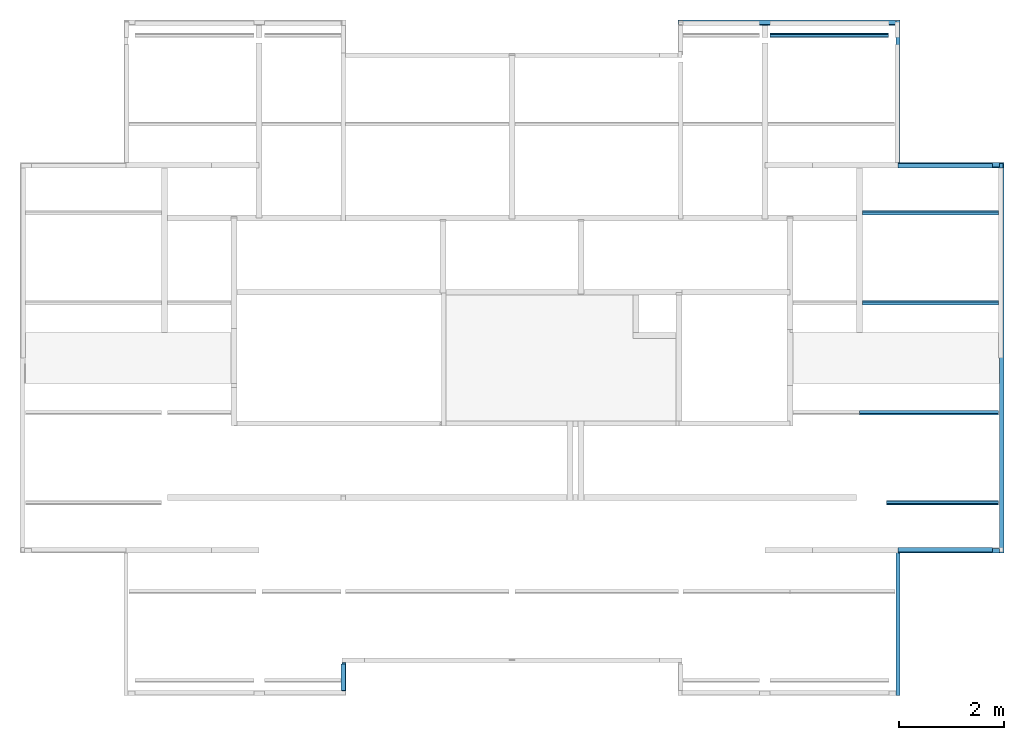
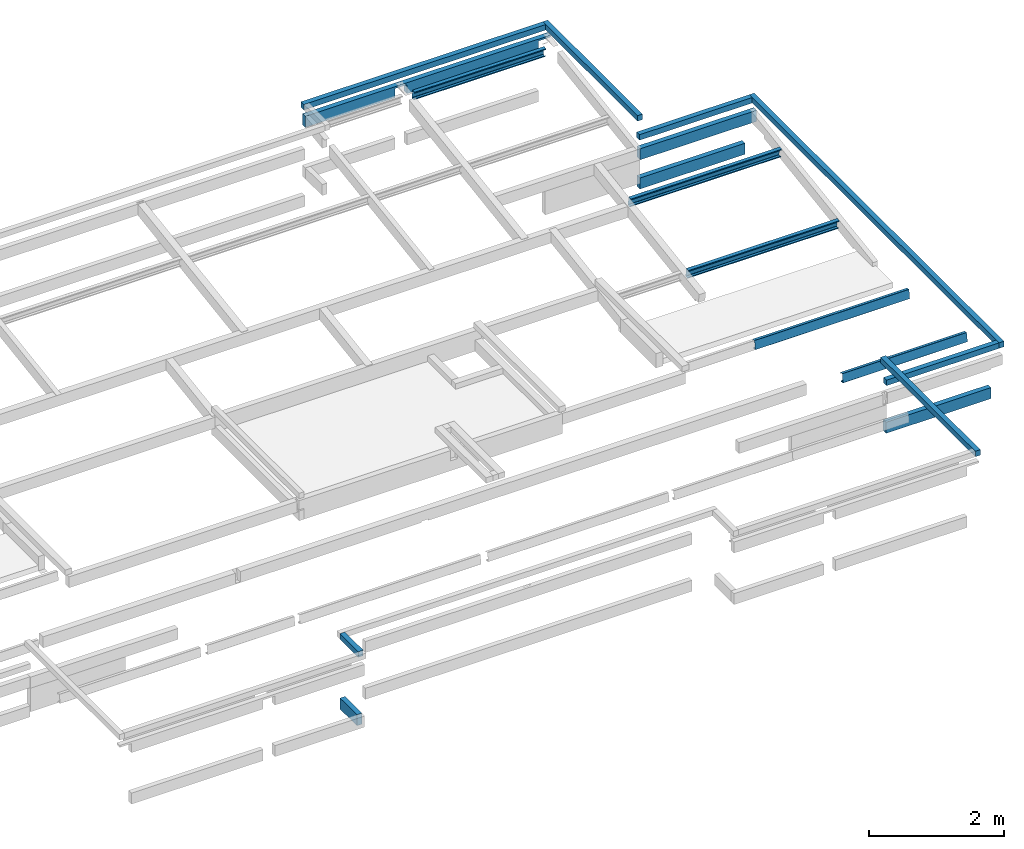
# One storey, part 6 of 9: 17 beams.
"""IFC4 building model written with IfcOpenShell, lengths in metres."""

from ifc_helpers import new_model, entity, si_unit, converted_unit, derived_unit, direction, frame, origin, place, context, subcontext, project, spatial, line, arc, indexed_curve, outline, extrude, source, transform, mapped, material, type_object, type_shapes, element, save


model = new_model("IFC4")

# Units and contexts
model_context = context("Model", 3, precision=1e-05, world=origin(), true_north=direction((6.123031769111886e-17, 1.0)))
body_context = subcontext(model_context, "Body", "Model", "MODEL_VIEW")
ifc_project = project(units=[si_unit("LENGTHUNIT", "METRE"), si_unit("AREAUNIT", "SQUARE_METRE"), si_unit("VOLUMEUNIT", "CUBIC_METRE"), converted_unit("PLANEANGLEUNIT", "DEGREE", entity("IfcRatioMeasure", 0.017453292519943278), si_unit("PLANEANGLEUNIT", "RADIAN"), dimensions=[0, 0, 0, 0, 0, 0, 0]), si_unit("MASSUNIT", "GRAM", prefix="KILO"), derived_unit("MASSDENSITYUNIT", [(si_unit("MASSUNIT", "GRAM", prefix="KILO"), 1), (si_unit("LENGTHUNIT", "METRE"), -3)]), derived_unit("IONCONCENTRATIONUNIT", [(si_unit("MASSUNIT", "GRAM", prefix="KILO"), 1), (si_unit("LENGTHUNIT", "METRE"), -3)]), derived_unit("MOMENTOFINERTIAUNIT", [(si_unit("LENGTHUNIT", "METRE"), 4)]), si_unit("TIMEUNIT", "SECOND"), si_unit("FREQUENCYUNIT", "HERTZ"), si_unit("THERMODYNAMICTEMPERATUREUNIT", "DEGREE_CELSIUS"), derived_unit("THERMALTRANSMITTANCEUNIT", [(si_unit("MASSUNIT", "GRAM", prefix="KILO"), 1), (si_unit("THERMODYNAMICTEMPERATUREUNIT", "KELVIN"), -1), (si_unit("TIMEUNIT", "SECOND"), -3)]), derived_unit("THERMALCONDUCTANCEUNIT", [(si_unit("MASSUNIT", "GRAM", prefix="KILO"), 1), (si_unit("THERMODYNAMICTEMPERATUREUNIT", "KELVIN"), -1), (si_unit("TIMEUNIT", "SECOND"), -3), (si_unit("LENGTHUNIT", "METRE"), 1)]), derived_unit("VOLUMETRICFLOWRATEUNIT", [(si_unit("LENGTHUNIT", "METRE"), 3), (si_unit("TIMEUNIT", "SECOND"), -1)]), derived_unit("MASSFLOWRATEUNIT", [(si_unit("MASSUNIT", "GRAM", prefix="KILO"), 1), (si_unit("TIMEUNIT", "SECOND"), -1)]), derived_unit("ROTATIONALFREQUENCYUNIT", [(si_unit("TIMEUNIT", "SECOND"), -1)]), si_unit("ELECTRICCURRENTUNIT", "AMPERE"), si_unit("ELECTRICVOLTAGEUNIT", "VOLT"), si_unit("POWERUNIT", "WATT"), si_unit("FORCEUNIT", "NEWTON", prefix="KILO"), si_unit("ILLUMINANCEUNIT", "LUX"), si_unit("LUMINOUSFLUXUNIT", "LUMEN"), si_unit("LUMINOUSINTENSITYUNIT", "CANDELA"), derived_unit("USERDEFINED", [(si_unit("MASSUNIT", "GRAM", prefix="KILO"), -1), (si_unit("LENGTHUNIT", "METRE"), -2), (si_unit("TIMEUNIT", "SECOND"), 3), (si_unit("LUMINOUSFLUXUNIT", "LUMEN"), 1)]), derived_unit("USERDEFINED", [(si_unit("MASSUNIT", "GRAM", prefix="KILO"), 1), (si_unit("TIMEUNIT", "SECOND"), -3), (si_unit("LENGTHUNIT", "METRE"), 3), (si_unit("ELECTRICCURRENTUNIT", "AMPERE"), -2)]), derived_unit("SOUNDPOWERUNIT", [(si_unit("MASSUNIT", "GRAM", prefix="KILO"), 1), (si_unit("TIMEUNIT", "SECOND"), -3), (si_unit("LENGTHUNIT", "METRE"), 2)]), derived_unit("SOUNDPRESSUREUNIT", [(si_unit("MASSUNIT", "GRAM", prefix="KILO"), 1), (si_unit("LENGTHUNIT", "METRE"), -1), (si_unit("TIMEUNIT", "SECOND"), -2)]), derived_unit("LINEARVELOCITYUNIT", [(si_unit("LENGTHUNIT", "METRE"), 1), (si_unit("TIMEUNIT", "SECOND"), -1)]), si_unit("PRESSUREUNIT", "PASCAL"), derived_unit("USERDEFINED", [(si_unit("MASSUNIT", "GRAM", prefix="KILO"), 1), (si_unit("LENGTHUNIT", "METRE"), -2), (si_unit("TIMEUNIT", "SECOND"), -2)]), derived_unit("LINEARFORCEUNIT", [(si_unit("MASSUNIT", "GRAM", prefix="KILO"), 1), (si_unit("TIMEUNIT", "SECOND"), -2)]), derived_unit("PLANARFORCEUNIT", [(si_unit("MASSUNIT", "GRAM", prefix="KILO"), 1), (si_unit("LENGTHUNIT", "METRE"), -1), (si_unit("TIMEUNIT", "SECOND"), -2)]), derived_unit("SPECIFICHEATCAPACITYUNIT", [(si_unit("THERMODYNAMICTEMPERATUREUNIT", "KELVIN"), -1), (si_unit("LENGTHUNIT", "METRE"), 2), (si_unit("TIMEUNIT", "SECOND"), -2)]), derived_unit("HEATINGVALUEUNIT", [(si_unit("LENGTHUNIT", "METRE"), 2), (si_unit("TIMEUNIT", "SECOND"), -2)]), derived_unit("VAPORPERMEABILITYUNIT", [(si_unit("LENGTHUNIT", "METRE"), -1), (si_unit("TIMEUNIT", "SECOND"), 1)]), derived_unit("DYNAMICVISCOSITYUNIT", [(si_unit("MASSUNIT", "GRAM", prefix="KILO"), 1), (si_unit("TIMEUNIT", "SECOND"), -1), (si_unit("LENGTHUNIT", "METRE"), -1)]), derived_unit("THERMALEXPANSIONCOEFFICIENTUNIT", [(si_unit("THERMODYNAMICTEMPERATUREUNIT", "KELVIN"), -1)]), derived_unit("MODULUSOFELASTICITYUNIT", [(si_unit("MASSUNIT", "GRAM", prefix="KILO"), 1), (si_unit("LENGTHUNIT", "METRE"), -1), (si_unit("TIMEUNIT", "SECOND"), -2)]), derived_unit("ISOTHERMALMOISTURECAPACITYUNIT", [(si_unit("LENGTHUNIT", "METRE"), 3), (si_unit("MASSUNIT", "GRAM", prefix="KILO"), -1)]), derived_unit("MOISTUREDIFFUSIVITYUNIT", [(si_unit("TIMEUNIT", "SECOND"), -1), (si_unit("LENGTHUNIT", "METRE"), 2)])], contexts=[model_context])

# Site, building, storey
site_placement = place(None, origin())
site = spatial("IfcSite", under=ifc_project, at=site_placement, Name="Default", CompositionType="ELEMENT")
building_placement = place(site_placement, origin())
building = spatial("IfcBuilding", under=site, at=building_placement, Name="Las nubes", CompositionType="ELEMENT")
storey_placement = place(building_placement, frame((0.0, 0.0, 14.100000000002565)))
storey = spatial("IfcBuildingStorey", under=building, at=storey_placement, Name="CUBIERTA", CompositionType="ELEMENT", Elevation=14.100000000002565)

# Beams
ifc_material_1 = material(Name="Concrete - Cast-in-Place Concrete - 35 MPa", Category="Materials")
beam_type_1 = type_object("IfcBeamType", Name="M_Concrete-Rectangular Beam:(0.085x0.20)", PredefinedType="BEAM", material=ifc_material_1)
shared_shape_1 = source(origin(), body_context, "Body", "SweptSolid", [
    extrude(outline(indexed_curve([(-0.09999999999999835, -0.04250000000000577), (0.10000000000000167, -0.0425000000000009), (0.10000000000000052, 0.04250000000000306), (-0.0999999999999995, 0.04250000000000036), (-0.09999999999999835, -0.04250000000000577)], self_intersect=False)), frame((18.472500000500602, -2.767505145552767, 14.10000000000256), z_axis=(-1.0, 0.0, 0.0), x_axis=(0.0, 0.0, -1.0)), (0.0, 0.0, 1.0), 1.8024999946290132),
])
type_shapes(beam_type_1, [shared_shape_1])
beam_1_placement = place(storey_placement, frame((0.0, 0.0, -14.100000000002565)))
element("IfcBeam", 1, at=beam_1_placement, inside=storey, type_object=beam_type_1, material=ifc_material_1, Name="M_Concrete-Rectangular Beam:(0.085x0.20)", ObjectType="M_Concrete-Rectangular Beam:(0.085x0.20)", PredefinedType="BEAM", context=body_context, shape_type="MappedRepresentation", body=[
    mapped(shared_shape_1, transform((0.0, 0.0, 0.0), scale=1.0)),
])
ifc_material_2 = material(Name="Concrete, Cast In Situ", Category="Materials")
beam_type_2 = type_object("IfcBeamType", Name="M_Concrete-Rectangular Beam:(0.085x0.20)", PredefinedType="BEAM", material=ifc_material_2)
shared_shape_2 = source(origin(), body_context, "Body", "SweptSolid", [
    extrude(outline(indexed_curve([(-0.09999999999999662, -0.04250000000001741), (0.10000000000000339, -0.042499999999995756), (0.09999999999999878, 0.04250000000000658), (-0.10000000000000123, 0.042499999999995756), (-0.09999999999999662, -0.04250000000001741)], self_intersect=False)), frame((18.47250000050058, -10.082494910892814, 14.10000000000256), z_axis=(-1.0, 0.0, 0.0), x_axis=(0.0, 0.0, -1.0)), (0.0, 0.0, 1.0), 1.8024999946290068),
])
type_shapes(beam_type_2, [shared_shape_2])
beam_2_placement = place(storey_placement, frame((0.0, 0.0, -14.100000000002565)))
element("IfcBeam", 2, at=beam_2_placement, inside=storey, type_object=beam_type_2, material=ifc_material_2, Name="M_Concrete-Rectangular Beam:(0.085x0.20)", ObjectType="M_Concrete-Rectangular Beam:(0.085x0.20)", PredefinedType="BEAM", context=body_context, shape_type="MappedRepresentation", body=[
    mapped(shared_shape_2, transform((0.0, 0.0, 0.0), scale=1.0)),
])
beam_type_3 = type_object("IfcBeamType", Name="M_Concrete-Rectangular Beam:(0.085x0.20)", PredefinedType="BEAM", material=ifc_material_2)
shared_shape_3 = source(origin(), body_context, "Body", "SweptSolid", [
    extrude(outline(indexed_curve([(-2.2989999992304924, -0.09428000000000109), (1.906000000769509, -0.09428000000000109), (1.906000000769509, -0.05858000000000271), (1.7059999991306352, -0.05858000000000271), (1.7059999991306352, 0.10571999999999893), (-0.5565000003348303, 0.10571999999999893), (-0.5565000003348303, -0.05858000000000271), (-0.7565000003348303, -0.05858000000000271), (-0.7565000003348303, 0.10571999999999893), (-2.2989999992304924, 0.10571999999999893), (-2.2989999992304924, -0.09428000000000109)], self_intersect=False)), frame((14.791500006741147, -0.09500002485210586, 15.041420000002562), z_axis=(0.0, 1.0, 0.0), x_axis=(1.0, 0.0, 0.0)), (0.0, 0.0, 1.0), 0.08500000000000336),
])
type_shapes(beam_type_3, [shared_shape_3])
beam_3_placement = place(storey_placement, frame((0.0, 0.0, -14.100000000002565)))
element("IfcBeam", 3, at=beam_3_placement, inside=storey, type_object=beam_type_3, material=ifc_material_2, Name="M_Concrete-Rectangular Beam:(0.085x0.20)", ObjectType="M_Concrete-Rectangular Beam:(0.085x0.20)", PredefinedType="BEAM", context=body_context, shape_type="MappedRepresentation", body=[
    mapped(shared_shape_3, transform((0.0, 0.0, 0.0), scale=1.0)),
])
beam_type_4 = type_object("IfcBeamType", Name="M_Concrete-Rectangular Beam:(0.085x0.20)", PredefinedType="BEAM", material=ifc_material_2)
shared_shape_4 = source(origin(), body_context, "Body", "SweptSolid", [
    extrude(outline(indexed_curve([(-0.10000000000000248, -0.04249999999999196), (0.09999999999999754, -0.04250000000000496), (0.10000000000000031, 0.04249999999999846), (-0.0999999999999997, 0.0425000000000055), (-0.10000000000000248, -0.04249999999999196)], self_intersect=False)), frame((18.67250000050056, -2.7675051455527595, 14.628300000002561), z_axis=(-1.0, 0.0, 0.0), x_axis=(0.0, 0.0, -1.0)), (0.0, 0.0, 1.0), 2.00249999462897),
])
type_shapes(beam_type_4, [shared_shape_4])
beam_4_placement = place(storey_placement, frame((0.0, 0.0, -14.100000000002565)))
element("IfcBeam", 4, at=beam_4_placement, inside=storey, type_object=beam_type_4, material=ifc_material_2, Name="M_Concrete-Rectangular Beam:(0.085x0.20)", ObjectType="M_Concrete-Rectangular Beam:(0.085x0.20)", PredefinedType="BEAM", context=body_context, shape_type="MappedRepresentation", body=[
    mapped(shared_shape_4, transform((0.0, 0.0, 0.0), scale=1.0)),
])
beam_type_5 = type_object("IfcBeamType", Name="M_Concrete-Rectangular Beam:(0.085x0.10)", PredefinedType="BEAM", material=ifc_material_2)
shared_shape_5 = source(origin(), body_context, "Body", "SweptSolid", [
    extrude(outline(indexed_curve([(-0.04250000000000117, -0.04999999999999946), (0.04250000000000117, -0.04999999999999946), (0.04250000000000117, 0.050000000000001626), (-0.04250000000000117, 0.04999999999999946), (-0.04250000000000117, -0.04999999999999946)], self_intersect=False)), frame((16.67000000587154, -2.8100000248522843, 15.29680000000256), z_axis=(0.0, 1.0, 0.0), x_axis=(-1.0, 0.0, 0.0)), (0.0, 0.0, 1.0), 2.8149999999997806),
])
type_shapes(beam_type_5, [shared_shape_5])
beam_5_placement = place(storey_placement, frame((0.0, 0.0, -14.100000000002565)))
element("IfcBeam", 5, at=beam_5_placement, inside=storey, type_object=beam_type_5, material=ifc_material_2, Name="M_Concrete-Rectangular Beam:(0.085x0.10)", ObjectType="M_Concrete-Rectangular Beam:(0.085x0.10)", PredefinedType="BEAM", context=body_context, shape_type="MappedRepresentation", body=[
    mapped(shared_shape_5, transform((0.0, 0.0, 0.0), scale=1.0)),
])
ifc_material_3 = material(Name="Steel - 300+", Category="Materials")
beam_type_6 = type_object("IfcBeamType", Name="AUS-C Purlin:CR-1", PredefinedType="BEAM", material=ifc_material_3)
shared_shape_6 = source(origin(), body_context, "Body", "SweptSolid", [
    extrude(outline(indexed_curve([(-0.0761499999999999, -0.03615000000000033), (0.0733500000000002, -0.036150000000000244), (0.07829974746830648, -0.03409974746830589), (0.08035000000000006, -0.02914999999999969), (0.08035000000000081, 0.020350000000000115), (0.07932487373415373, 0.022824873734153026), (0.07685000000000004, 0.023850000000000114), (0.060349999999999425, 0.023850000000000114), (0.060349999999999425, 0.02185000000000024), (0.07685000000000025, 0.02185000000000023), (0.07791066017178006, 0.021410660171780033), (0.07834999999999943, 0.020350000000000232), (0.07835000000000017, -0.029150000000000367), (0.07688553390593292, -0.032685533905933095), (0.0733499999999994, -0.03415000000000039), (-0.07614999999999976, -0.03415000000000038), (-0.07721066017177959, -0.033710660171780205), (-0.07765000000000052, -0.03265000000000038), (-0.07764999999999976, 0.02035000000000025), (-0.07721066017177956, 0.021410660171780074), (-0.07615000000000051, 0.02185000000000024), (-0.05965000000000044, 0.02185000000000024), (-0.05965000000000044, 0.023850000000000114), (-0.07614999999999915, 0.023850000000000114), (-0.07862487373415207, 0.022824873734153), (-0.0796499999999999, 0.020350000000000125), (-0.0796499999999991, -0.032650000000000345), (-0.078624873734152, -0.03512487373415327)], segments=[line(1, 2), arc(2, 3, 4), line(4, 5), arc(5, 6, 7), line(7, 8, 9, 10), arc(10, 11, 12), line(12, 13), arc(13, 14, 15), line(15, 16), arc(16, 17, 18), line(18, 19), arc(19, 20, 21), line(21, 22, 23, 24), arc(24, 25, 26), line(26, 27), arc(27, 28, 1)], self_intersect=False)), frame((-1.3043464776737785, 0.03415000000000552, 0.0003499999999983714), z_axis=(1.0, 0.0, 0.0), x_axis=(0.0, 0.0, -1.0)), (0.0, 0.0, 1.0), 2.5935732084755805),
])
type_shapes(beam_type_6, [shared_shape_6])
beam_6_placement = place(storey_placement, frame((17.28249947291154, -3.6354425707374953, 0.4236636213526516), z_axis=(0.0, -0.14834045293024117, 0.9889363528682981), x_axis=(-1.0, 0.0, 0.0)))
element("IfcBeam", 6, at=beam_6_placement, inside=storey, type_object=beam_type_6, material=ifc_material_3, Name="AUS-C Purlin:CR-1", ObjectType="AUS-C Purlin:CR-1", PredefinedType="BEAM", context=body_context, shape_type="MappedRepresentation", body=[
    mapped(shared_shape_6, transform((0.0, 0.0, 0.0), scale=1.0)),
])
beam_type_7 = type_object("IfcBeamType", Name="AUS-C Purlin:CR-1", PredefinedType="BEAM", material=ifc_material_3)
shared_shape_7 = source(origin(), body_context, "Body", "SweptSolid", [
    extrude(outline(indexed_curve([(-0.07614999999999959, -0.023850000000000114), (-0.05965000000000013, -0.023850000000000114), (-0.05965000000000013, -0.02185000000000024), (-0.07615000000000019, -0.02185000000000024), (-0.07721066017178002, -0.021410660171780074), (-0.0776500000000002, -0.020350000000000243), (-0.07765000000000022, 0.03265000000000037), (-0.07721066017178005, 0.033710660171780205), (-0.0761500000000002, 0.03415000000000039), (0.07334999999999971, 0.03415000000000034), (0.07688553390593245, 0.03268553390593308), (0.07834999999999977, 0.029150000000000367), (0.07834999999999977, -0.02035000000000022), (0.07791066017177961, -0.021410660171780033), (0.07684999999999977, -0.02185000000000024), (0.06034999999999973, -0.02185000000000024), (0.06034999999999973, -0.023850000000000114), (0.07685000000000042, -0.023850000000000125), (0.07932487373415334, -0.022824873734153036), (0.0803500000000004, -0.020350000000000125), (0.0803500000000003, 0.029149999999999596), (0.078299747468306, 0.034099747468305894), (0.0733499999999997, 0.03615000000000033), (-0.07614999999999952, 0.036150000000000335), (-0.07862487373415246, 0.03512487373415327), (-0.07964999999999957, 0.032650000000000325), (-0.07964999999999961, -0.020350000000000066), (-0.07862487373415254, -0.02282487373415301)], segments=[line(1, 2, 3, 4), arc(4, 5, 6), line(6, 7), arc(7, 8, 9), line(9, 10), arc(10, 11, 12), line(12, 13), arc(13, 14, 15), line(15, 16, 17, 18), arc(18, 19, 20), line(20, 21), arc(21, 22, 23), line(23, 24), arc(24, 25, 26), line(26, 27), arc(27, 28, 1)], self_intersect=False)), frame((-1.0755964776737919, -0.03415000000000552, 0.00034999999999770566), z_axis=(1.0, 0.0, 0.0), x_axis=(0.0, 0.0, -1.0)), (0.0, 0.0, 1.0), 2.136073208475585),
])
type_shapes(beam_type_7, [shared_shape_7])
beam_7_placement = place(storey_placement, frame((17.511249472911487, -9.214557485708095, 0.4236636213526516), z_axis=(0.0, 0.14834045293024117, 0.9889363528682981), x_axis=(-1.0, 0.0, 0.0)))
element("IfcBeam", 7, at=beam_7_placement, inside=storey, type_object=beam_type_7, material=ifc_material_3, Name="AUS-C Purlin:CR-1", ObjectType="AUS-C Purlin:CR-1", PredefinedType="BEAM", context=body_context, shape_type="MappedRepresentation", body=[
    mapped(shared_shape_7, transform((0.0, 0.0, 0.0), scale=1.0)),
])
beam_type_8 = type_object("IfcBeamType", Name="AUS-C Purlin:CR-1", PredefinedType="BEAM", material=ifc_material_3)
shared_shape_8 = source(origin(), body_context, "Body", "SweptSolid", [
    extrude(outline(indexed_curve([(-0.07614999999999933, -0.03615000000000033), (0.07334999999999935, -0.036150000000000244), (0.0782997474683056, -0.03409974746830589), (0.08035000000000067, -0.02914999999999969), (0.08035000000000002, 0.020350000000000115), (0.07932487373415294, 0.022824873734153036), (0.07685000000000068, 0.023850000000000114), (0.060349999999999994, 0.023850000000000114), (0.060349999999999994, 0.02185000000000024), (0.0768499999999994, 0.02185000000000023), (0.07791066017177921, 0.021410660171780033), (0.07835000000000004, 0.020350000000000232), (0.07834999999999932, -0.029150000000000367), (0.07688553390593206, -0.032685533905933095), (0.07334999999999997, -0.03415000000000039), (-0.07615000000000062, -0.03415000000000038), (-0.07721066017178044, -0.033710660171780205), (-0.07764999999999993, -0.03265000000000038), (-0.07765000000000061, 0.02035000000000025), (-0.07721066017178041, 0.021410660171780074), (-0.07614999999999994, 0.02185000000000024), (-0.05964999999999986, 0.02185000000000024), (-0.05964999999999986, 0.023850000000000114), (-0.07615000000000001, 0.023850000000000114), (-0.0786248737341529, 0.022824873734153), (-0.0796499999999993, 0.020350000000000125), (-0.07964999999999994, -0.032650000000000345), (-0.07862487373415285, -0.03512487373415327)], segments=[line(1, 2), arc(2, 3, 4), line(4, 5), arc(5, 6, 7), line(7, 8, 9, 10), arc(10, 11, 12), line(12, 13), arc(13, 14, 15), line(15, 16), arc(16, 17, 18), line(18, 19), arc(19, 20, 21), line(21, 22, 23, 24), arc(24, 25, 26), line(26, 27), arc(27, 28, 1)], self_intersect=False)), frame((-1.3043464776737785, 0.03415000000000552, 0.00034999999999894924), z_axis=(1.0, 0.0, 0.0), x_axis=(0.0, 0.0, -1.0)), (0.0, 0.0, 1.0), 2.593814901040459),
])
type_shapes(beam_type_8, [shared_shape_8])
beam_8_placement = place(storey_placement, frame((17.282499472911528, -5.350442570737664, 0.1664136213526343), z_axis=(0.0, -0.14834045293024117, 0.9889363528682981), x_axis=(-1.0, 0.0, 0.0)))
element("IfcBeam", 8, at=beam_8_placement, inside=storey, type_object=beam_type_8, material=ifc_material_3, Name="AUS-C Purlin:CR-1", ObjectType="AUS-C Purlin:CR-1", PredefinedType="BEAM", context=body_context, shape_type="MappedRepresentation", body=[
    mapped(shared_shape_8, transform((0.0, 0.0, 0.0), scale=1.0)),
])
beam_type_9 = type_object("IfcBeamType", Name="AUS-C Purlin:CR-1", PredefinedType="BEAM", material=ifc_material_3)
shared_shape_9 = source(origin(), body_context, "Body", "SweptSolid", [
    extrude(outline(indexed_curve([(-0.07614999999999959, -0.023850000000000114), (-0.05965000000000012, -0.023850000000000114), (-0.05965000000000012, -0.02185000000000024), (-0.07615000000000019, -0.02185000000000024), (-0.07721066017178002, -0.021410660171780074), (-0.0776500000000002, -0.020350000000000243), (-0.07765000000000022, 0.03265000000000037), (-0.07721066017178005, 0.033710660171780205), (-0.0761500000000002, 0.03415000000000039), (0.07334999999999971, 0.03415000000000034), (0.07688553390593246, 0.03268553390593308), (0.07834999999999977, 0.029150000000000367), (0.07834999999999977, -0.02035000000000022), (0.07791066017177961, -0.021410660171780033), (0.07684999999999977, -0.02185000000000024), (0.060349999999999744, -0.02185000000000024), (0.060349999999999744, -0.023850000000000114), (0.07685000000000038, -0.023850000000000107), (0.0793248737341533, -0.022824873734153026), (0.0803500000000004, -0.020350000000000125), (0.08035000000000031, 0.029149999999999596), (0.07829974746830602, 0.034099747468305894), (0.0733499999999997, 0.03615000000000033), (-0.07614999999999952, 0.036150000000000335), (-0.07862487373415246, 0.03512487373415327), (-0.07964999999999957, 0.032650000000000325), (-0.07964999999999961, -0.020350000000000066), (-0.07862487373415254, -0.02282487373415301)], segments=[line(1, 2, 3, 4), arc(4, 5, 6), line(6, 7), arc(7, 8, 9), line(9, 10), arc(10, 11, 12), line(12, 13), arc(13, 14, 15), line(15, 16, 17, 18), arc(18, 19, 20), line(20, 21), arc(21, 22, 23), line(23, 24), arc(24, 25, 26), line(26, 27), arc(27, 28, 1)], self_intersect=False)), frame((-1.3043464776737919, -0.03415000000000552, 0.000349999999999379), z_axis=(1.0, 0.0, 0.0), x_axis=(0.0, 0.0, -1.0)), (0.0, 0.0, 1.0), 2.651314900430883),
])
type_shapes(beam_type_9, [shared_shape_9])
beam_9_placement = place(storey_placement, frame((17.2824994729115, -7.499557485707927, 0.1664136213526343), z_axis=(0.0, 0.14834045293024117, 0.9889363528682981), x_axis=(-1.0, 0.0, 0.0)))
element("IfcBeam", 9, at=beam_9_placement, inside=storey, type_object=beam_type_9, material=ifc_material_3, Name="AUS-C Purlin:CR-1", ObjectType="AUS-C Purlin:CR-1", PredefinedType="BEAM", context=body_context, shape_type="MappedRepresentation", body=[
    mapped(shared_shape_9, transform((0.0, 0.0, 0.0), scale=1.0)),
])
beam_type_10 = type_object("IfcBeamType", Name="AUS-C Purlin:CR-1", PredefinedType="BEAM", material=ifc_material_3)
shared_shape_10 = source(origin(), body_context, "Body", "SweptSolid", [
    extrude(outline(indexed_curve([(-0.07614999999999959, -0.03615000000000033), (0.07334999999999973, -0.036150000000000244), (0.078299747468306, -0.03409974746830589), (0.08035000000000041, -0.02914999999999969), (0.08035000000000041, 0.020350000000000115), (0.07932487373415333, 0.022824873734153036), (0.0768500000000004, 0.023850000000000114), (0.06034999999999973, 0.023850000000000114), (0.06034999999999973, 0.02185000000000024), (0.0768499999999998, 0.02185000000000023), (0.07791066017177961, 0.02141066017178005), (0.07834999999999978, 0.020350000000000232), (0.07834999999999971, -0.029150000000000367), (0.07688553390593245, -0.032685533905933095), (0.07334999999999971, -0.03415000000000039), (-0.07615000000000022, -0.03415000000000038), (-0.07721066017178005, -0.033710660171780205), (-0.0776500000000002, -0.03265000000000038), (-0.07765000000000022, 0.02035000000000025), (-0.07721066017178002, 0.021410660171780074), (-0.0761500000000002, 0.02185000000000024), (-0.05965000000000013, 0.02185000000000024), (-0.05965000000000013, 0.023850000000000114), (-0.0761499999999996, 0.023850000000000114), (-0.07862487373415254, 0.02282487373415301), (-0.07964999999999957, 0.020350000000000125), (-0.07964999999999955, -0.032650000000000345), (-0.07862487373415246, -0.03512487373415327)], segments=[line(1, 2), arc(2, 3, 4), line(4, 5), arc(5, 6, 7), line(7, 8, 9, 10), arc(10, 11, 12), line(12, 13), arc(13, 14, 15), line(15, 16), arc(16, 17, 18), line(18, 19), arc(19, 20, 21), line(21, 22, 23, 24), arc(24, 25, 26), line(26, 27), arc(27, 28, 1)], self_intersect=False)), frame((-1.0970356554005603, 0.03415000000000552, 0.0003499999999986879), z_axis=(1.0, 0.0, 0.0), x_axis=(0.0, 0.0, -1.0)), (0.0, 0.0, 1.0), 2.2570356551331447),
])
type_shapes(beam_type_10, [shared_shape_10])
beam_10_placement = place(storey_placement, frame((15.395000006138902, -0.25573925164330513, 0.9306191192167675), z_axis=(0.0, -0.14834045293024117, 0.9889363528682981), x_axis=(-1.0, 0.0, 0.0)))
element("IfcBeam", 10, at=beam_10_placement, inside=storey, type_object=beam_type_10, material=ifc_material_3, Name="AUS-C Purlin:CR-1", ObjectType="AUS-C Purlin:CR-1", PredefinedType="BEAM", context=body_context, shape_type="MappedRepresentation", body=[
    mapped(shared_shape_10, transform((0.0, 0.0, 0.0), scale=1.0)),
])
beam_type_11 = type_object("IfcBeamType", Name="M_Concrete-Rectangular Beam:(0.085x0.10)", PredefinedType="BEAM", material=ifc_material_2)
shared_shape_11 = source(origin(), body_context, "Body", "SweptSolid", [
    extrude(outline(indexed_curve([(-0.042499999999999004, -0.04999999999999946), (0.042500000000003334, -0.04999999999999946), (0.042500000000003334, 0.050000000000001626), (-0.042499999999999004, 0.050000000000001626), (-0.042499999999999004, -0.04999999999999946)], self_intersect=False)), frame((16.670000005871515, -12.855000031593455, 15.29680000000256), z_axis=(0.0, 1.0, 0.0), x_axis=(-1.0, 0.0, 0.0)), (0.0, 0.0, 1.0), 2.815000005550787),
])
type_shapes(beam_type_11, [shared_shape_11])
beam_11_placement = place(storey_placement, frame((0.0, 0.0, -14.100000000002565)))
element("IfcBeam", 11, at=beam_11_placement, inside=storey, type_object=beam_type_11, material=ifc_material_2, Name="M_Concrete-Rectangular Beam:(0.085x0.10)", ObjectType="M_Concrete-Rectangular Beam:(0.085x0.10)", PredefinedType="BEAM", context=body_context, shape_type="MappedRepresentation", body=[
    mapped(shared_shape_11, transform((0.0, 0.0, 0.0), scale=1.0)),
])
beam_type_12 = type_object("IfcBeamType", Name="M_Concrete-Rectangular Beam:(0.085x0.10)", PredefinedType="BEAM", material=ifc_material_1)
shared_shape_12 = source(origin(), body_context, "Body", "SweptSolid", [
    extrude(outline(indexed_curve([(-0.04250000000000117, -0.050000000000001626), (0.04250000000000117, -0.050000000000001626), (0.04250000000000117, 0.04999999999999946), (-0.04250000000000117, 0.04999999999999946), (-0.04250000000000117, -0.050000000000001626)], self_intersect=False)), frame((18.645000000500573, -10.13999491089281, 14.925800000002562), z_axis=(0.0, 1.0, 0.0), x_axis=(-1.0, 0.0, 0.0)), (0.0, 0.0, 1.0), 7.429994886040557),
])
type_shapes(beam_type_12, [shared_shape_12])
beam_12_placement = place(storey_placement, frame((0.0, 0.0, -14.100000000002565)))
element("IfcBeam", 12, at=beam_12_placement, inside=storey, type_object=beam_type_12, material=ifc_material_1, Name="M_Concrete-Rectangular Beam:(0.085x0.10)", ObjectType="M_Concrete-Rectangular Beam:(0.085x0.10)", PredefinedType="BEAM", context=body_context, shape_type="MappedRepresentation", body=[
    mapped(shared_shape_12, transform((0.0, 0.0, 0.0), scale=1.0)),
])
beam_type_13 = type_object("IfcBeamType", Name="M_Concrete-Rectangular Beam:(0.085x0.10)", PredefinedType="BEAM", material=ifc_material_2)
shared_shape_13 = source(origin(), body_context, "Body", "SweptSolid", [
    extrude(outline(indexed_curve([(-0.05000000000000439, -0.04249999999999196), (0.04999999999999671, -0.04250000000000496), (0.05000000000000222, 0.042499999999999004), (-0.04999999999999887, 0.0425000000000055), (-0.05000000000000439, -0.04249999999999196)], self_intersect=False)), frame((18.602500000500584, -2.7525000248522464, 14.92580000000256), z_axis=(-1.0, 0.0, 0.0), x_axis=(0.0, 0.0, -1.0)), (0.0, 0.0, 1.0), 1.9324999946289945),
])
type_shapes(beam_type_13, [shared_shape_13])
beam_13_placement = place(storey_placement, frame((0.0, 0.0, -14.100000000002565)))
element("IfcBeam", 13, at=beam_13_placement, inside=storey, type_object=beam_type_13, material=ifc_material_2, Name="M_Concrete-Rectangular Beam:(0.085x0.10)", ObjectType="M_Concrete-Rectangular Beam:(0.085x0.10)", PredefinedType="BEAM", context=body_context, shape_type="MappedRepresentation", body=[
    mapped(shared_shape_13, transform((0.0, 0.0, 0.0), scale=1.0)),
])
beam_type_14 = type_object("IfcBeamType", Name="M_Concrete-Rectangular Beam:(0.085x0.10)", PredefinedType="BEAM", material=ifc_material_1)
shared_shape_14 = source(origin(), body_context, "Body", "SweptSolid", [
    extrude(outline(indexed_curve([(-0.05000000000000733, -0.04249999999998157), (0.04999999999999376, -0.042500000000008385), (0.050000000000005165, 0.04249999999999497), (-0.04999999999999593, 0.04250000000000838), (-0.05000000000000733, -0.04249999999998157)], self_intersect=False)), frame((16.627500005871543, -0.03750002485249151, 15.29680000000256), z_axis=(-1.0, 0.0, 0.0), x_axis=(0.0, 0.0, -1.0)), (0.0, 0.0, 1.0), 4.1499999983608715),
])
type_shapes(beam_type_14, [shared_shape_14])
beam_14_placement = place(storey_placement, frame((0.0, 0.0, -14.100000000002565)))
element("IfcBeam", 14, at=beam_14_placement, inside=storey, type_object=beam_type_14, material=ifc_material_1, Name="M_Concrete-Rectangular Beam:(0.085x0.10)", ObjectType="M_Concrete-Rectangular Beam:(0.085x0.10)", PredefinedType="BEAM", context=body_context, shape_type="MappedRepresentation", body=[
    mapped(shared_shape_14, transform((0.0, 0.0, 0.0), scale=1.0)),
])
beam_type_15 = type_object("IfcBeamType", Name="M_Concrete-Rectangular Beam:(0.085x0.10)", PredefinedType="BEAM", material=ifc_material_2)
shared_shape_15 = source(origin(), body_context, "Body", "SweptSolid", [
    extrude(outline(indexed_curve([(-0.04250000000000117, -0.04999999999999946), (0.04250000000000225, -0.04999999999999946), (0.04250000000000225, 0.050000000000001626), (-0.04250000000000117, 0.050000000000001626), (-0.04250000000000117, -0.04999999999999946)], self_intersect=False)), frame((6.12499999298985, -12.770000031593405, 15.29680000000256), z_axis=(0.0, 1.0, 0.0), x_axis=(-1.0, 0.0, 0.0)), (0.0, 0.0, 1.0), 0.5450000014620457),
])
type_shapes(beam_type_15, [shared_shape_15])
beam_15_placement = place(storey_placement, frame((0.0, 0.0, -14.100000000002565)))
element("IfcBeam", 15, at=beam_15_placement, inside=storey, type_object=beam_type_15, material=ifc_material_2, Name="M_Concrete-Rectangular Beam:(0.085x0.10)", ObjectType="M_Concrete-Rectangular Beam:(0.085x0.10)", PredefinedType="BEAM", context=body_context, shape_type="MappedRepresentation", body=[
    mapped(shared_shape_15, transform((0.0, 0.0, 0.0), scale=1.0)),
])
beam_type_16 = type_object("IfcBeamType", Name="M_Concrete-Rectangular Beam:(0.085x0.10)", PredefinedType="BEAM", material=ifc_material_2)
shared_shape_16 = source(origin(), body_context, "Body", "SweptSolid", [
    extrude(outline(indexed_curve([(-0.05000000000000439, -0.04249999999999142), (0.04999999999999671, -0.042500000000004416), (0.05000000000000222, 0.04249999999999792), (-0.04999999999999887, 0.042500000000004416), (-0.05000000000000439, -0.04249999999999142)], self_intersect=False)), frame((16.670000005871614, -10.097494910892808, 14.92580000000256), z_axis=(1.0, 0.0, 0.0), x_axis=(0.0, 0.0, -1.0)), (0.0, 0.0, 1.0), 1.9324999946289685),
])
type_shapes(beam_type_16, [shared_shape_16])
beam_16_placement = place(storey_placement, frame((0.0, 0.0, -14.100000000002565)))
element("IfcBeam", 16, at=beam_16_placement, inside=storey, type_object=beam_type_16, material=ifc_material_2, Name="M_Concrete-Rectangular Beam:(0.085x0.10)", ObjectType="M_Concrete-Rectangular Beam:(0.085x0.10)", PredefinedType="BEAM", context=body_context, shape_type="MappedRepresentation", body=[
    mapped(shared_shape_16, transform((0.0, 0.0, 0.0), scale=1.0)),
])
beam_type_17 = type_object("IfcBeamType", Name="M_Concrete-Rectangular Beam:(0.085x0.20)", PredefinedType="BEAM", material=ifc_material_2)
shared_shape_17 = source(origin(), body_context, "Body", "SweptSolid", [
    extrude(outline(indexed_curve([(-0.04250000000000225, -0.09999999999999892), (0.04250000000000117, -0.09999999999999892), (0.04250000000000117, 0.10000000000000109), (-0.04250000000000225, 0.10000000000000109), (-0.04250000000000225, -0.09999999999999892)], self_intersect=False)), frame((6.10999999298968, -12.255000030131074, 14.10000000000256), z_axis=(0.0, -1.0, 0.0), x_axis=(-1.0, 0.0, 0.0)), (0.0, 0.0, 1.0), 0.5000000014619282),
])
type_shapes(beam_type_17, [shared_shape_17])
beam_17_placement = place(storey_placement, frame((0.0, 0.0, -14.100000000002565)))
element("IfcBeam", 17, at=beam_17_placement, inside=storey, type_object=beam_type_17, material=ifc_material_2, Name="M_Concrete-Rectangular Beam:(0.085x0.20)", ObjectType="M_Concrete-Rectangular Beam:(0.085x0.20)", PredefinedType="BEAM", context=body_context, shape_type="MappedRepresentation", body=[
    mapped(shared_shape_17, transform((0.0, 0.0, 0.0), scale=1.0)),
])

save(model, "model.ifc")
